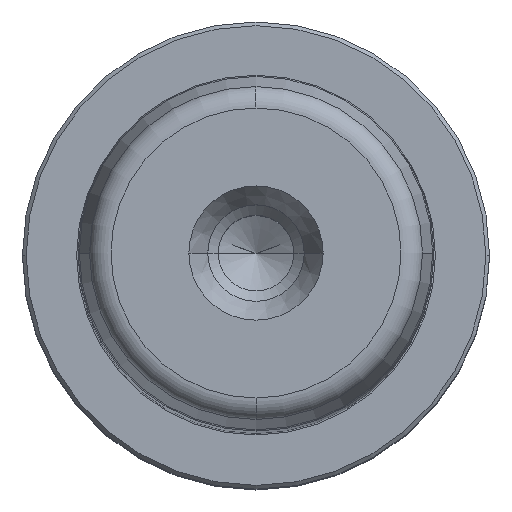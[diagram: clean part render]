
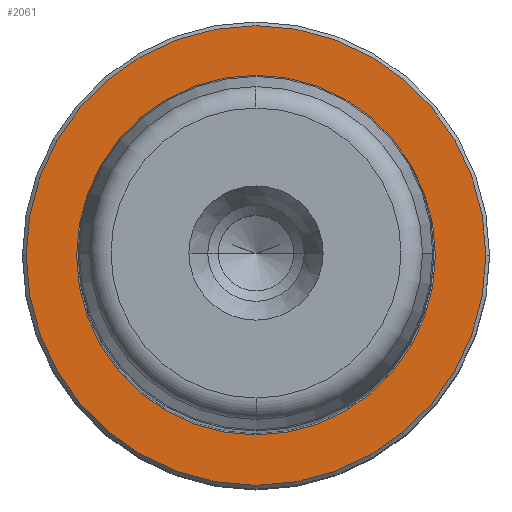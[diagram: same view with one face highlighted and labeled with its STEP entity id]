
A CAD part, top view. The second image highlights one B-rep face of the part: STEP entity #2061.
In plain terms, the highlighted planar face has unit normal (0, 0, 1).
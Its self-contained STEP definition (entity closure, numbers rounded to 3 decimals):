
#898=CARTESIAN_POINT('',(0.0,-24.2,5.));
#899=VERTEX_POINT('',#898);
#907=CARTESIAN_POINT('',(24.2,0.,5.0));
#908=VERTEX_POINT('',#907);
#909=CARTESIAN_POINT('',(0.0,0.,5.0));
#910=DIRECTION('',(0.0,0.0,1.0));
#911=DIRECTION('',(1.0,0.0,0.0));
#912=AXIS2_PLACEMENT_3D('',#909,#910,#911);
#913=CIRCLE('',#912,24.2);
#914=EDGE_CURVE('',#899,#908,#913,.T.);
#916=CARTESIAN_POINT('',(0.,24.2,5.));
#917=VERTEX_POINT('',#916);
#918=CARTESIAN_POINT('',(0.0,0.,5.0));
#919=DIRECTION('',(0.0,0.0,1.0));
#920=DIRECTION('',(1.0,0.0,0.0));
#921=AXIS2_PLACEMENT_3D('',#918,#919,#920);
#922=CIRCLE('',#921,24.2);
#923=EDGE_CURVE('',#908,#917,#922,.T.);
#950=CARTESIAN_POINT('',(31.0,0.,5.0));
#951=VERTEX_POINT('',#950);
#960=CARTESIAN_POINT('',(-31.0,0.,5.0));
#961=VERTEX_POINT('',#960);
#962=CARTESIAN_POINT('',(0.0,0.,5.0));
#963=DIRECTION('',(0.0,0.0,1.0));
#964=DIRECTION('',(1.0,0.0,0.0));
#965=AXIS2_PLACEMENT_3D('',#962,#963,#964);
#966=CIRCLE('',#965,31.0);
#967=EDGE_CURVE('',#961,#951,#966,.T.);
#2031=CARTESIAN_POINT('',(0.0,0.,5.0));
#2032=DIRECTION('',(0.0,0.0,1.0));
#2033=DIRECTION('',(1.0,0.0,0.0));
#2034=AXIS2_PLACEMENT_3D('',#2031,#2032,#2033);
#2035=CIRCLE('',#2034,31.0);
#2036=EDGE_CURVE('',#951,#961,#2035,.T.);
#2041=CARTESIAN_POINT('',(27.6,0.,5.0));
#2042=DIRECTION('',(0.0,0.0,1.0));
#2043=DIRECTION('',(0.0,-1.0,0.0));
#2044=AXIS2_PLACEMENT_3D('',#2041,#2042,#2043);
#2045=PLANE('',#2044);
#2046=ORIENTED_EDGE('',*,*,#2036,.T.);
#2047=ORIENTED_EDGE('',*,*,#967,.T.);
#2048=EDGE_LOOP('',(#2046,#2047));
#2049=FACE_OUTER_BOUND('',#2048,.T.);
#2050=ORIENTED_EDGE('',*,*,#923,.F.);
#2051=ORIENTED_EDGE('',*,*,#914,.F.);
#2052=CARTESIAN_POINT('',(0.0,0.,5.0));
#2053=DIRECTION('',(0.0,0.0,1.0));
#2054=DIRECTION('',(1.0,0.0,0.0));
#2055=AXIS2_PLACEMENT_3D('',#2052,#2053,#2054);
#2056=CIRCLE('',#2055,24.2);
#2057=EDGE_CURVE('',#917,#899,#2056,.T.);
#2058=ORIENTED_EDGE('',*,*,#2057,.F.);
#2059=EDGE_LOOP('',(#2050,#2051,#2058));
#2060=FACE_BOUND('',#2059,.T.);
#2061=ADVANCED_FACE('',(#2049,#2060),#2045,.T.);
